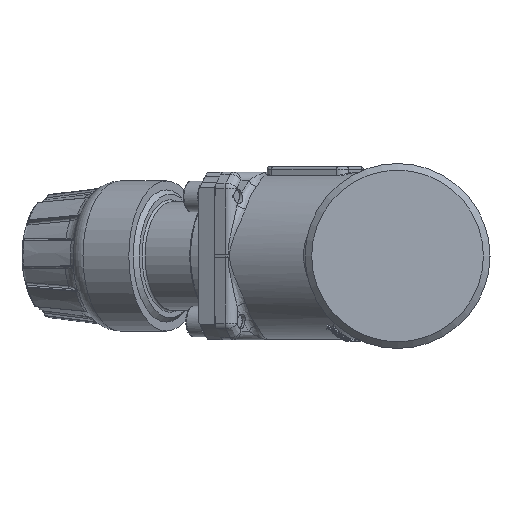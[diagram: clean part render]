
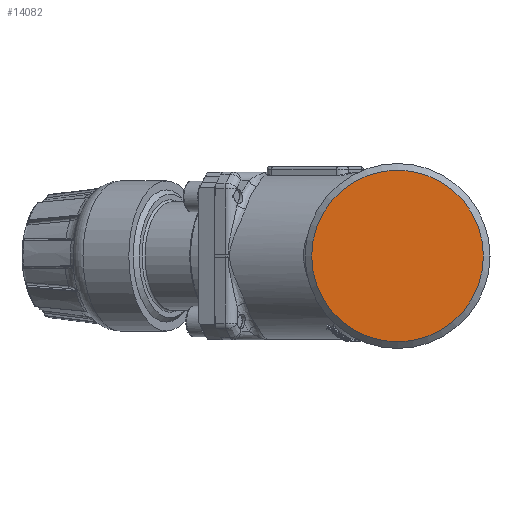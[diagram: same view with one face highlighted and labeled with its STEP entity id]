
A CAD part, left-side view. The second image highlights one B-rep face of the part: STEP entity #14082.
In plain terms, the highlighted planar face has unit normal (-1, 0, 0).
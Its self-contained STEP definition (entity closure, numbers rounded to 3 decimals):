
#1818=PLANE($,#14956);
#2127=CIRCLE($,#14957,19.455);
#2602=FACE_OUTER_BOUND($,#3459,.T.);
#3459=EDGE_LOOP($,(#8985));
#5511=VERTEX_POINT($,#24652);
#6853=EDGE_CURVE($,#5511,#5511,#2127,.T.);
#8985=ORIENTED_EDGE($,*,*,#6853,.F.);
#14082=ADVANCED_FACE($,(#2602),#1818,.F.);
#14956=AXIS2_PLACEMENT_3D($,#24651,#15908,#15909);
#14957=AXIS2_PLACEMENT_3D($,#24653,#15910,#15911);
#15908=DIRECTION('center_axis',(1.,0.,0.));
#15909=DIRECTION('ref_axis',(0.,0.,
-1.));
#15910=DIRECTION('center_axis',(1.,0.,0.));
#15911=DIRECTION('ref_axis',(0.,-1.,0.));
#24651=CARTESIAN_POINT('Origin',(-24.5,42.797,-22.251));
#24652=CARTESIAN_POINT('',(-24.5,19.455,0.));
#24653=CARTESIAN_POINT('Origin',(-24.5,0.,0.));
